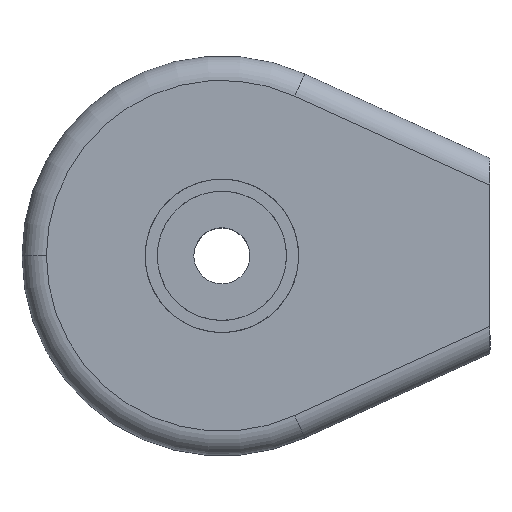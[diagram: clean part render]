
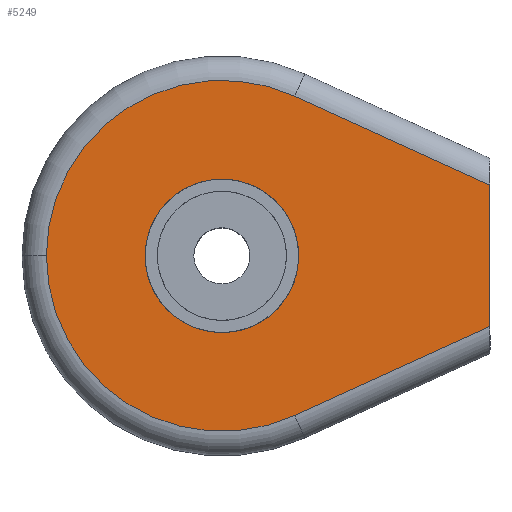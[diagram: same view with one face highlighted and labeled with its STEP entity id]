
A CAD part, top view. The second image highlights one B-rep face of the part: STEP entity #5249.
In plain terms, the highlighted planar face has unit normal (0, 0, 1).
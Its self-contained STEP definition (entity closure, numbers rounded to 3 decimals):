
#111 = CARTESIAN_POINT ( 'NONE',  ( 0., 0., 4.11 ) ) ;
#140 = VERTEX_POINT ( 'NONE', #4826 ) ;
#224 = CIRCLE ( 'NONE', #7016, 3.15 ) ;
#273 = DIRECTION ( 'NONE',  ( -1., 0., 0. ) ) ;
#416 = EDGE_CURVE ( 'NONE', #4532, #3088, #2885, .T. ) ;
#453 = EDGE_CURVE ( 'NONE', #5571, #4532, #4200, .T. ) ;
#542 = FACE_BOUND ( 'NONE', #1622, .T. ) ;
#868 = AXIS2_PLACEMENT_3D ( 'NONE', #1673, #2822, #5114 ) ;
#959 = EDGE_CURVE ( 'NONE', #1264, #5571, #2712, .T. ) ;
#1045 = DIRECTION ( 'NONE',  ( 0., 0., -1. ) ) ;
#1126 = EDGE_CURVE ( 'NONE', #5992, #2560, #4499, .T. ) ;
#1264 = VERTEX_POINT ( 'NONE', #2971 ) ;
#1265 = DIRECTION ( 'NONE',  ( -1., 0., 0. ) ) ;
#1271 = DIRECTION ( 'NONE',  ( 0.91, 0.415, 0. ) ) ;
#1406 = DIRECTION ( 'NONE',  ( 0., 0., 1. ) ) ;
#1622 = EDGE_LOOP ( 'NONE', ( #3832, #2084 ) ) ;
#1673 = CARTESIAN_POINT ( 'NONE',  ( 0., 0., 4.11 ) ) ;
#1690 = DIRECTION ( 'NONE',  ( 1., 0., 0. ) ) ;
#1745 = DIRECTION ( 'NONE',  ( -0.91, 0.415, 0. ) ) ;
#2018 = CARTESIAN_POINT ( 'NONE',  ( -3.15, 0., 4.11 ) ) ;
#2084 = ORIENTED_EDGE ( 'NONE', *, *, #1126, .F. ) ;
#2105 = AXIS2_PLACEMENT_3D ( 'NONE', #7243, #1406, #273 ) ;
#2219 = DIRECTION ( 'NONE',  ( -1., 0., 0. ) ) ;
#2304 = CARTESIAN_POINT ( 'NONE',  ( 0., 0., 4.11 ) ) ;
#2379 = ORIENTED_EDGE ( 'NONE', *, *, #3615, .T. ) ;
#2560 = VERTEX_POINT ( 'NONE', #2018 ) ;
#2635 = CARTESIAN_POINT ( 'NONE',  ( 2.985, -6.552, 4.11 ) ) ;
#2712 = CIRCLE ( 'NONE', #2105, 7.2 ) ;
#2822 = DIRECTION ( 'NONE',  ( 0., 0., 1. ) ) ;
#2885 = LINE ( 'NONE', #4161, #4164 ) ;
#2971 = CARTESIAN_POINT ( 'NONE',  ( -7.2, 0., 4.11 ) ) ;
#3088 = VERTEX_POINT ( 'NONE', #6120 ) ;
#3615 = EDGE_CURVE ( 'NONE', #140, #1264, #5924, .T. ) ;
#3820 = EDGE_LOOP ( 'NONE', ( #5121, #4410, #2379, #6694, #5429 ) ) ;
#3832 = ORIENTED_EDGE ( 'NONE', *, *, #6457, .F. ) ;
#4161 = CARTESIAN_POINT ( 'NONE',  ( 11., 4., 4.11 ) ) ;
#4164 = VECTOR ( 'NONE', #5275, 1000. ) ;
#4179 = CARTESIAN_POINT ( 'NONE',  ( 2.985, 6.552, 4.11 ) ) ;
#4200 = LINE ( 'NONE', #5320, #6814 ) ;
#4410 = ORIENTED_EDGE ( 'NONE', *, *, #6825, .T. ) ;
#4499 = CIRCLE ( 'NONE', #868, 3.15 ) ;
#4532 = VERTEX_POINT ( 'NONE', #6093 ) ;
#4539 = DIRECTION ( 'NONE',  ( 0., 0., 1. ) ) ;
#4605 = CARTESIAN_POINT ( 'NONE',  ( 0., 0., 4.11 ) ) ;
#4826 = CARTESIAN_POINT ( 'NONE',  ( 2.985, 6.552, 4.11 ) ) ;
#5114 = DIRECTION ( 'NONE',  ( 1., 0., 0. ) ) ;
#5121 = ORIENTED_EDGE ( 'NONE', *, *, #416, .T. ) ;
#5153 = PLANE ( 'NONE',  #6642 ) ;
#5249 = ADVANCED_FACE ( 'NONE', ( #6797, #542 ), #5153, .F. ) ;
#5275 = DIRECTION ( 'NONE',  ( 0., 1., 0. ) ) ;
#5320 = CARTESIAN_POINT ( 'NONE',  ( 2.985, -6.552, 4.11 ) ) ;
#5429 = ORIENTED_EDGE ( 'NONE', *, *, #453, .T. ) ;
#5571 = VERTEX_POINT ( 'NONE', #2635 ) ;
#5924 = CIRCLE ( 'NONE', #7038, 7.2 ) ;
#5992 = VERTEX_POINT ( 'NONE', #7417 ) ;
#6093 = CARTESIAN_POINT ( 'NONE',  ( 11., -2.901, 4.11 ) ) ;
#6120 = CARTESIAN_POINT ( 'NONE',  ( 11., 2.901, 4.11 ) ) ;
#6433 = LINE ( 'NONE', #4179, #7247 ) ;
#6457 = EDGE_CURVE ( 'NONE', #2560, #5992, #224, .T. ) ;
#6642 = AXIS2_PLACEMENT_3D ( 'NONE', #4605, #1045, #2219 ) ;
#6694 = ORIENTED_EDGE ( 'NONE', *, *, #959, .T. ) ;
#6797 = FACE_OUTER_BOUND ( 'NONE', #3820, .T. ) ;
#6814 = VECTOR ( 'NONE', #1271, 1000. ) ;
#6825 = EDGE_CURVE ( 'NONE', #3088, #140, #6433, .T. ) ;
#7016 = AXIS2_PLACEMENT_3D ( 'NONE', #2304, #4539, #1690 ) ;
#7038 = AXIS2_PLACEMENT_3D ( 'NONE', #111, #7068, #1265 ) ;
#7068 = DIRECTION ( 'NONE',  ( 0., 0., 1. ) ) ;
#7243 = CARTESIAN_POINT ( 'NONE',  ( 0., 0., 4.11 ) ) ;
#7247 = VECTOR ( 'NONE', #1745, 1000. ) ;
#7417 = CARTESIAN_POINT ( 'NONE',  ( 3.15, 0., 4.11 ) ) ;
